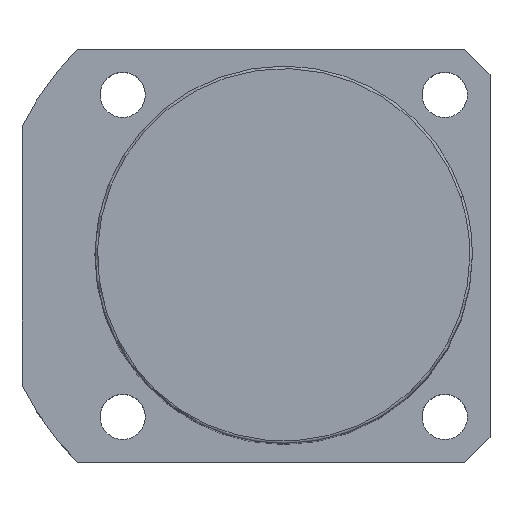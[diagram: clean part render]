
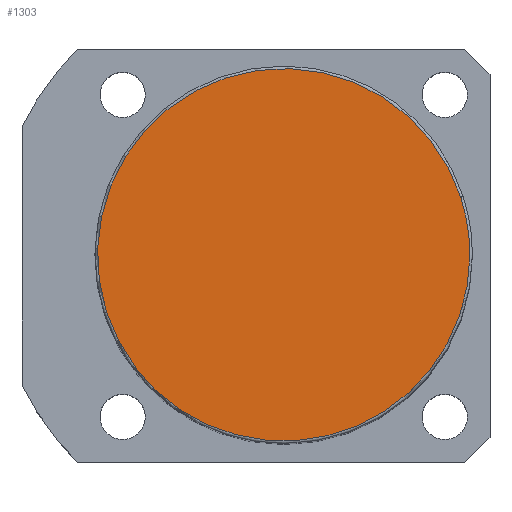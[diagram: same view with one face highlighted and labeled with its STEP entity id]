
A CAD part, top view. The second image highlights one B-rep face of the part: STEP entity #1303.
In plain terms, the highlighted planar face has unit normal (0, 0, 1).
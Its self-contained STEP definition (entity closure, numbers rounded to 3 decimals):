
#1236=CARTESIAN_POINT('',(35.189,11.434,138.0));
#1237=VERTEX_POINT('',#1236);
#1255=CARTESIAN_POINT('',(-35.189,-11.434,138.0));
#1256=VERTEX_POINT('',#1255);
#1264=CARTESIAN_POINT('',(0.0,0.0,138.0));
#1265=DIRECTION('',(0.0,0.0,1.0));
#1266=DIRECTION('',(1.0,0.0,0.0));
#1267=AXIS2_PLACEMENT_3D('',#1264,#1265,#1266);
#1268=CIRCLE('',#1267,37.0);
#1269=EDGE_CURVE('no 4003',#1237,#1256,#1268,.T.);
#1279=CARTESIAN_POINT('',(37.0,0.0,138.0));
#1280=VERTEX_POINT('',#1279);
#1281=CARTESIAN_POINT('',(0.0,0.0,138.0));
#1282=DIRECTION('',(0.0,0.0,1.0));
#1283=DIRECTION('',(1.0,0.0,0.0));
#1284=AXIS2_PLACEMENT_3D('',#1281,#1282,#1283);
#1285=CIRCLE('',#1284,37.0);
#1286=EDGE_CURVE('no 4012',#1280,#1237,#1285,.T.);
#1287=ORIENTED_EDGE('',*,*,#1286,.T.);
#1288=ORIENTED_EDGE('',*,*,#1269,.T.);
#1289=CARTESIAN_POINT('',(0.0,0.0,138.0));
#1290=DIRECTION('',(0.0,0.0,1.0));
#1291=DIRECTION('',(1.0,0.0,0.0));
#1292=AXIS2_PLACEMENT_3D('',#1289,#1290,#1291);
#1293=CIRCLE('',#1292,37.0);
#1294=EDGE_CURVE('no 4018',#1256,#1280,#1293,.T.);
#1295=ORIENTED_EDGE('',*,*,#1294,.T.);
#1296=EDGE_LOOP('',(#1287,#1288,#1295));
#1297=FACE_OUTER_BOUND('',#1296,.T.);
#1298=CARTESIAN_POINT('',(0.0,0.0,138.0));
#1299=DIRECTION('',(0.0,0.0,1.0));
#1300=DIRECTION('',(1.0,0.0,0.0));
#1301=AXIS2_PLACEMENT_3D('',#1298,#1299,#1300);
#1302=PLANE('',#1301);
#1303=ADVANCED_FACE('no 4005',(#1297),#1302,.T.);
